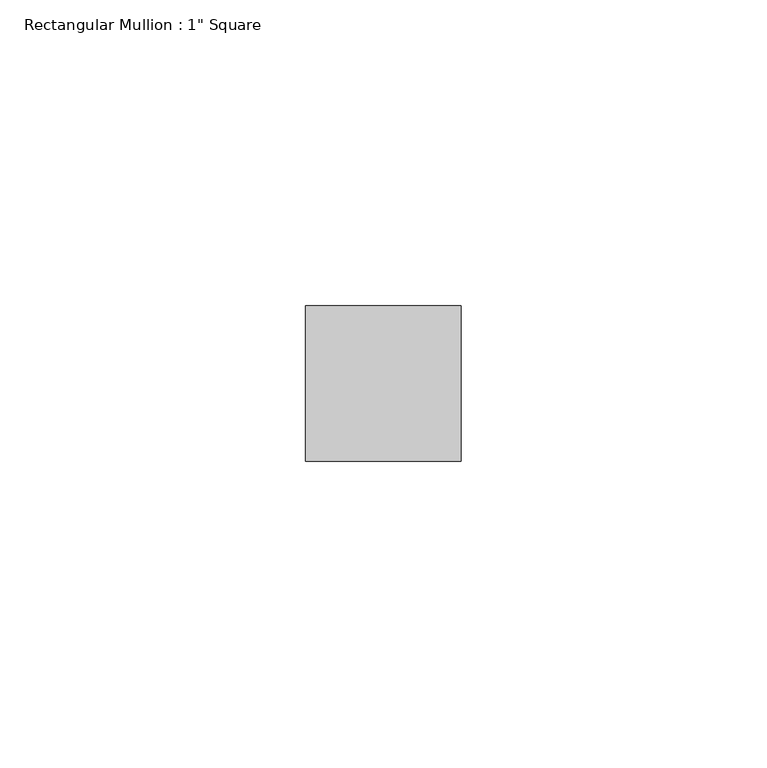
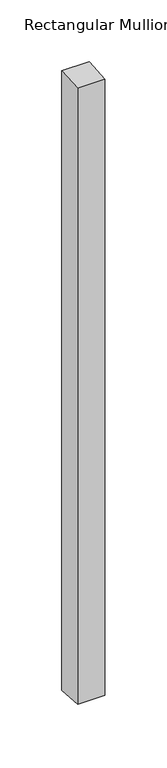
"""IFC4 building model written with IfcOpenShell, lengths in millimetres: member geometry."""

from ifc_helpers import new_model, si_unit, origin, place, context, project, spatial, faceted_brep, source, transform, mapped, element, save


def member_5f010dbd(model_context):
    return source(origin(), model_context, "Body", "Brep", [
        faceted_brep([(-25.4, 12.7, 0.8200366), (0.0, 12.7, 0.7581091), (0.0, 12.7, -610.3581091), (-25.4, 12.7, -610.4200366), (-25.4, -12.7, -0.6961815), (-25.4, -12.7, -608.9038185), (0.0, -12.7, -0.7581091), (0.0, -12.7, -608.8418909)], [[[0, 1, 2, 3]], [[4, 0, 3, 5]], [[6, 4, 5, 7]], [[1, 6, 7, 2]], [[1, 0, 4, 6]], [[2, 7, 5, 3]]]),
    ])


if __name__ == "__main__":
    model = new_model("IFC4")
    model_context = context("Model", 3, world=origin())
    ifc_project = project(units=[si_unit("LENGTHUNIT", "METRE", prefix="MILLI")], contexts=[model_context])
    site = spatial("IfcSite", under=ifc_project)
    building = spatial("IfcBuilding", under=site)
    placement = place(None, origin())
    member_shape = member_5f010dbd(model_context)
    element("IfcMember", 1, ObjectType="Rectangular Mullion : 1\" Square", at=placement, inside=building, context=model_context, shape_type="MappedRepresentation", body=[
        mapped(member_shape, transform((0.0, 0.0, 0.0), x_axis=(1.0, 0.0, 0.0), y_axis=(0.0, 1.0, 0.0), z_axis=(0.0, 0.0, 1.0))),
    ])
    save(model, "model.ifc")
